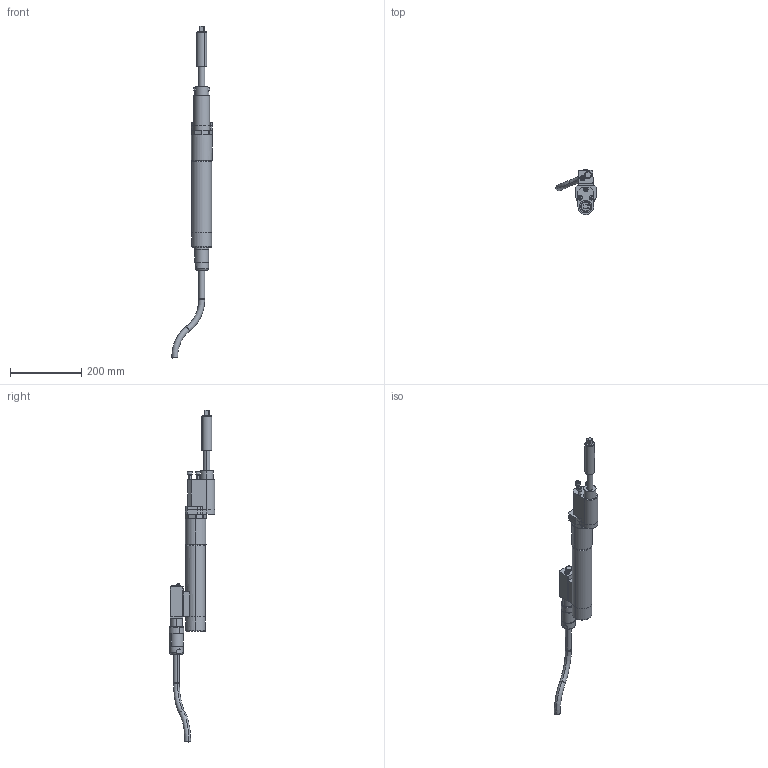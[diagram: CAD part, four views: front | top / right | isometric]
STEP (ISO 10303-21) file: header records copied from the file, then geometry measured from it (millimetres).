
FILE_DESCRIPTION(('CATIA V5 STEP Exchange'),'2;1');
FILE_NAME('C:\pro\7920149_ECR205_AO250_AllCATPart.stp','2008-11-10T09:29:53+00:00',('none'),('none'),'CATIA Version 5 Release 17 (IN-10)','CATIA V5 STEP AP203','none');
FILE_SCHEMA(('CONFIG_CONTROL_DESIGN'));
Length unit declared in the file: millimetre
Products named in the file (1): 7920149_ECR205_AO250_AllCATPart
Bounding box: 112.82 x 127.3 x 932.16 mm (x, y, z)
Volume: 1575039.1 mm3; surface area: 182811.4 mm2
Topology: 11 solids, 11 shells, 307 faces, 700 edges, 440 vertices
Faces by surface type: plane 142, cylinder 105, cone 36, torus 24
Entity records: 8230 total; most frequent: CARTESIAN_POINT 1666, ORIENTED_EDGE 1392, DIRECTION 1146, EDGE_CURVE 696, AXIS2_PLACEMENT_3D 546, VERTEX_POINT 440, VECTOR 360, LINE 360
